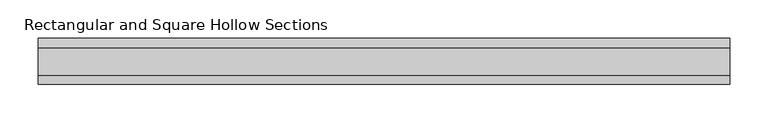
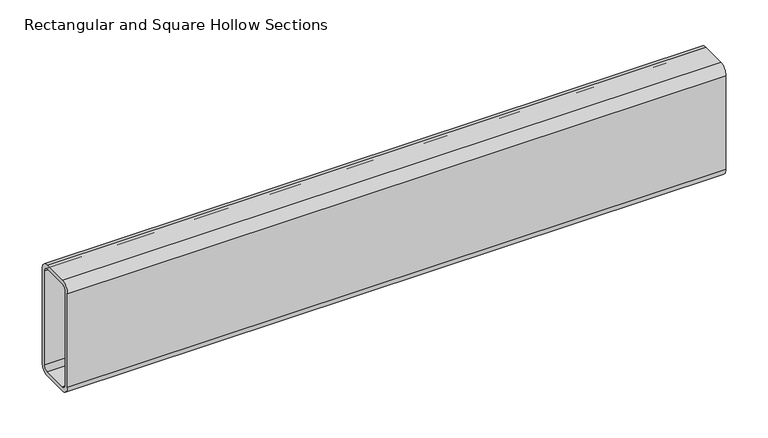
"""IFC4 building model written with IfcOpenShell, lengths in millimetres: beam geometry, Rectangular and Square Hollow Sections : TREC160x60x6."""

import ifcopenshell
import ifcopenshell.guid

model = None  # the IFC model being written
_history = None  # IfcOwnerHistory: only IFC2X3 demands one
_inside = {}  # id of a spatial element -> (the spatial element, [elements in it])
_under = {}  # id of a project, library or spatial element -> (it, [spatial elements below it])
_declared = {}  # id of a project -> (the project, [libraries it declares])
_typed = {}  # id of a type object -> (the type object, [elements of that type])
_made_of = {}  # id of a material, layer set ... -> (it, [elements and type objects made of it])


def new_model(schema):
    """Start an empty IFC model of exactly this schema.

    Asked for "IFC4X3", IfcOpenShell would pick the latest addendum, in which some entities
    have other attributes; the version numbers below select the first issue.
    IFC2X3 requires an IfcOwnerHistory on every rooted entity: one is made here for all.
    """
    global model, _history
    if schema == "IFC4X3":
        model = ifcopenshell.file(schema_version=(4, 3, 0, 0))
    else:
        model = ifcopenshell.file(schema=schema)
    _inside.clear()
    _under.clear()
    _declared.clear()
    _typed.clear()
    _made_of.clear()
    _history = None
    if model.schema == "IFC2X3":
        org = make("IfcOrganization", Name="unknown")
        user = make(
            "IfcPersonAndOrganization",
            ThePerson=make("IfcPerson", FamilyName="unknown"),
            TheOrganization=org,
        )
        app = make(
            "IfcApplication",
            ApplicationDeveloper=org,
            Version="unknown",
            ApplicationFullName="unknown",
            ApplicationIdentifier="unknown",
        )
        _history = make(
            "IfcOwnerHistory",
            OwningUser=user,
            OwningApplication=app,
            ChangeAction="ADDED",
            CreationDate=0,
        )
    return model


def make(cls, **values):
    """One entity of the class cls with the attributes given. An attribute that is None is left unset."""
    return model.create_entity(
        cls, **{name: value for name, value in values.items() if value is not None}
    )


def rooted(cls, **values):
    """An entity with a GlobalId (a new one), such as an element, a storey or a relation."""
    return make(cls, GlobalId=ifcopenshell.guid.new(), OwnerHistory=_history, **values)


def si_unit(unit_type, name, prefix=None):
    """IfcSIUnit, for example si_unit("LENGTHUNIT", "METRE", prefix="MILLI")."""
    return make("IfcSIUnit", UnitType=unit_type, Prefix=prefix, Name=name)


def assignment(units):
    """IfcUnitAssignment: the units of a project."""
    return None if units is None else make("IfcUnitAssignment", Units=units)


def point(xyz):
    """IfcCartesianPoint."""
    return None if xyz is None else make("IfcCartesianPoint", Coordinates=xyz)


def direction(xyz):
    """IfcDirection."""
    return None if xyz is None else make("IfcDirection", DirectionRatios=xyz)


def frame(location, z_axis=None, x_axis=None):
    """IfcAxis2Placement3D, a coordinate frame: its origin and axes. An axis left out is left unset."""
    return make(
        "IfcAxis2Placement3D",
        Location=point(location),
        Axis=direction(z_axis),
        RefDirection=direction(x_axis),
    )


def frame_2d(location, x_axis=None):
    """IfcAxis2Placement2D, a coordinate frame in the plane: its origin and x axis."""
    return make(
        "IfcAxis2Placement2D", Location=point(location), RefDirection=direction(x_axis)
    )


def origin():
    """The frame at (0, 0, 0) with its axes left unset."""
    return frame((0.0, 0.0, 0.0))


def place(relative_to, where):
    """IfcLocalPlacement: puts the frame where relative to a parent placement (None: the world)."""
    return make(
        "IfcLocalPlacement", PlacementRelTo=relative_to, RelativePlacement=where
    )


def context(
    kind, dimensions, precision=None, world=None, true_north=None, identifier=None
):
    """IfcGeometricRepresentationContext, for example the 3D "Model" context."""
    return make(
        "IfcGeometricRepresentationContext",
        ContextIdentifier=identifier,
        ContextType=kind,
        CoordinateSpaceDimension=dimensions,
        Precision=precision,
        WorldCoordinateSystem=world,
        TrueNorth=true_north,
    )


def project(units=None, contexts=None):
    """IfcProject with its units and contexts."""
    return rooted(
        "IfcProject",
        Name="project",
        RepresentationContexts=contexts,
        UnitsInContext=assignment(units),
    )


def spatial(cls, under=None, at=None, **own):
    """A site, building, storey or space (cls), placed at a placement, below another one or the project."""
    s = rooted(cls, ObjectPlacement=at, **own)
    if under is not None:
        _under.setdefault(under.id(), (under, []))[1].append(s)
    return s


def polyline(points):
    """IfcPolyline through the points."""
    return make("IfcPolyline", Points=[point(p) for p in points])


def circle_curve(where, radius):
    """IfcCircle in the frame where."""
    return make("IfcCircle", Position=where, Radius=radius)


def trimmed(basis, trim1, trim2, sense, master):
    """IfcTrimmedCurve: the piece of a basis curve between two trims."""
    return make(
        "IfcTrimmedCurve",
        BasisCurve=basis,
        Trim1=trim1,
        Trim2=trim2,
        SenseAgreement=sense,
        MasterRepresentation=master,
    )


def segment(curve, same_sense, transition):
    """IfcCompositeCurveSegment."""
    return make(
        "IfcCompositeCurveSegment",
        Transition=transition,
        SameSense=same_sense,
        ParentCurve=curve,
    )


def composite_curve(segments, self_intersect=None):
    """IfcCompositeCurve: segments joined end to end."""
    return make("IfcCompositeCurve", Segments=segments, SelfIntersect=self_intersect)


def outline(outer, holes=None, kind="AREA"):
    """IfcArbitraryClosedProfileDef: a profile drawn as a closed curve; with holes, ...WithVoids."""
    if holes is None:
        return make("IfcArbitraryClosedProfileDef", ProfileType=kind, OuterCurve=outer)
    return make(
        "IfcArbitraryProfileDefWithVoids",
        ProfileType=kind,
        OuterCurve=outer,
        InnerCurves=holes,
    )


def extrude(swept, where, along, depth):
    """IfcExtrudedAreaSolid: the profile swept, set in the frame where, extruded along a direction by depth."""
    return make(
        "IfcExtrudedAreaSolid",
        SweptArea=swept,
        Position=where,
        ExtrudedDirection=direction(along),
        Depth=depth,
    )


def shape(context_of_items, identifier, shape_type, items):
    """IfcShapeRepresentation: the items that make up one representation, for example the "Body"."""
    return make(
        "IfcShapeRepresentation",
        ContextOfItems=context_of_items,
        RepresentationIdentifier=identifier,
        RepresentationType=shape_type,
        Items=items,
    )


def source(mapping_origin, context_of_items, identifier, shape_type, items):
    """IfcRepresentationMap: a shape defined once, which mapped items show again and again."""
    return make(
        "IfcRepresentationMap",
        MappingOrigin=mapping_origin,
        MappedRepresentation=shape(context_of_items, identifier, shape_type, items),
    )


def transform(
    local_origin,
    x_axis=None,
    y_axis=None,
    z_axis=None,
    scale=None,
    scale2=None,
    scale3=None,
    uniform=True,
):
    """IfcCartesianTransformationOperator3D, or its non-uniform kind. x_axis, y_axis, z_axis: its Axis1, 2, 3."""
    if uniform:
        return make(
            "IfcCartesianTransformationOperator3D",
            Axis1=direction(x_axis),
            Axis2=direction(y_axis),
            LocalOrigin=point(local_origin),
            Scale=scale,
            Axis3=direction(z_axis),
        )
    return make(
        "IfcCartesianTransformationOperator3DnonUniform",
        Axis1=direction(x_axis),
        Axis2=direction(y_axis),
        LocalOrigin=point(local_origin),
        Scale=scale,
        Axis3=direction(z_axis),
        Scale2=scale2,
        Scale3=scale3,
    )


def mapped(mapping_source, mapping_target):
    """IfcMappedItem: shows the shape of a source again, moved by a transform."""
    return make(
        "IfcMappedItem", MappingSource=mapping_source, MappingTarget=mapping_target
    )


def made_of(thing, what):
    """Note that an element or type object is made of a material, layer set ...; save() writes the relation."""
    if what is not None:
        _made_of.setdefault(what.id(), (what, []))[1].append(thing)
    return thing


def element(
    cls,
    number,
    at=None,
    inside=None,
    cuts=None,
    type_object=None,
    material=None,
    context=None,
    identifier="Body",
    shape_type=None,
    held_by="IfcProductDefinitionShape",
    body=None,
    shapes=None,
    **own,
):
    """One element of the class cls, such as IfcWall. Its Tag is "e" and its number.

    at: its placement. inside: the storey or other place that contains it. cuts: it is an
    opening in that element (IfcRelVoidsElement). A single representation is given by context,
    identifier, shape_type and body (its items); several are given by shapes. held_by: the class
    of the entity that holds the representations. save() writes the other relations.
    """
    e = rooted(cls, Tag="e%d" % number, ObjectPlacement=at, **own)
    if body is not None:
        shapes = [shape(context, identifier, shape_type, body)]
    if shapes is not None:
        e.Representation = make(held_by, Representations=shapes)
    if inside is not None:
        _inside.setdefault(inside.id(), (inside, []))[1].append(e)
    if cuts is not None:
        rooted(
            "IfcRelVoidsElement", RelatingBuildingElement=cuts, RelatedOpeningElement=e
        )
    if type_object is not None:
        _typed.setdefault(type_object.id(), (type_object, []))[1].append(e)
    return made_of(e, material)


def aggregate(whole, parts):
    """IfcRelAggregates: a whole, such as a stair, and the parts it consists of."""
    return rooted("IfcRelAggregates", RelatingObject=whole, RelatedObjects=parts)


def save(model, path):
    """Write the relations noted so far, then the file.

    IfcRelAggregates (storeys below a building ...), IfcRelContainedInSpatialStructure (elements
    in a storey), IfcRelDefinesByType, IfcRelAssociatesMaterial and IfcRelDeclares: one each for
    every whole, place, type object, material and project.
    """
    for whole, parts in _under.values():
        aggregate(whole, parts)
    for where, things in _inside.values():
        rooted(
            "IfcRelContainedInSpatialStructure",
            RelatedElements=things,
            RelatingStructure=where,
        )
    for kind, things in _typed.values():
        rooted("IfcRelDefinesByType", RelatedObjects=things, RelatingType=kind)
    for what, things in _made_of.values():
        rooted("IfcRelAssociatesMaterial", RelatedObjects=things, RelatingMaterial=what)
    for by, libraries in _declared.values():
        rooted("IfcRelDeclares", RelatingContext=by, RelatedDefinitions=libraries)
    model.write(path)


def rectangular_and_square_hollow_sections_f002cd70(model_context):
    return source(origin(), model_context, "Body", "SweptSolid", [
        extrude(outline(composite_curve([segment(polyline([(30.0, 68.0), (30.0, -68.0)]), True, "CONTINUOUS"), segment(trimmed(circle_curve(frame_2d((18.0, -68.0)), 12.0), [point((30.0, -68.0))], [point((18.0, -80.0))], False, "CARTESIAN"), True, "CONTINUOUS"), segment(polyline([(18.0, -80.0), (-18.0, -80.0)]), True, "CONTINUOUS"), segment(trimmed(circle_curve(frame_2d((-18.0, -68.0)), 12.0), [point((-18.0, -80.0))], [point((-30.0, -68.0))], False, "CARTESIAN"), True, "CONTINUOUS"), segment(polyline([(-30.0, -68.0), (-30.0, 68.0)]), True, "CONTINUOUS"), segment(trimmed(circle_curve(frame_2d((-18.0, 68.0)), 12.0), [point((-30.0, 68.0))], [point((-18.0, 80.0))], False, "CARTESIAN"), True, "CONTINUOUS"), segment(polyline([(-18.0, 80.0), (18.0, 80.0)]), True, "CONTINUOUS"), segment(trimmed(circle_curve(frame_2d((18.0, 68.0)), 12.0), [point((18.0, 80.0))], [point((30.0, 68.0))], False, "CARTESIAN"), True, "CONTINUOUS")], self_intersect=False), holes=[composite_curve([segment(trimmed(circle_curve(frame_2d((-18.0, 68.0)), 6.0), [point((-18.0, 74.0))], [point((-24.0, 68.0))], True, "CARTESIAN"), True, "CONTINUOUS"), segment(polyline([(-24.0, 68.0), (-24.0, -68.0)]), True, "CONTINUOUS"), segment(trimmed(circle_curve(frame_2d((-18.0, -68.0)), 6.0), [point((-24.0, -68.0))], [point((-18.0, -74.0))], True, "CARTESIAN"), True, "CONTINUOUS"), segment(polyline([(-18.0, -74.0), (18.0, -74.0)]), True, "CONTINUOUS"), segment(trimmed(circle_curve(frame_2d((18.0, -68.0)), 6.0), [point((18.0, -74.0))], [point((24.0, -68.0))], True, "CARTESIAN"), True, "CONTINUOUS"), segment(polyline([(24.0, -68.0), (24.0, 68.0)]), True, "CONTINUOUS"), segment(trimmed(circle_curve(frame_2d((18.0, 68.0)), 6.0), [point((24.0, 68.0))], [point((18.0, 74.0))], True, "CARTESIAN"), True, "CONTINUOUS"), segment(polyline([(18.0, 74.0), (-18.0, 74.0)]), True, "CONTINUOUS")], self_intersect=False)]), frame((-451.0, 0.0, 0.0), z_axis=(1.0, 0.0, 0.0), x_axis=(0.0, 1.0, 0.0)), (0.0, 0.0, 1.0), 902.0),
    ])


if __name__ == "__main__":
    model = new_model("IFC4")
    model_context = context("Model", 3, world=origin())
    ifc_project = project(units=[si_unit("LENGTHUNIT", "METRE", prefix="MILLI")], contexts=[model_context])
    site = spatial("IfcSite", under=ifc_project)
    building = spatial("IfcBuilding", under=site)
    placement = place(None, origin())
    rectangular_and_square_hollow_sections_shape = rectangular_and_square_hollow_sections_f002cd70(model_context)
    element("IfcBeam", 1, ObjectType="Rectangular and Square Hollow Sections : TREC160x60x6", at=placement, inside=building, context=model_context, shape_type="MappedRepresentation", body=[
        mapped(rectangular_and_square_hollow_sections_shape, transform((0.0, 0.0, 0.0), x_axis=(1.0, 0.0, 0.0), y_axis=(0.0, 1.0, 0.0), z_axis=(0.0, 0.0, 1.0))),
    ])
    save(model, "model.ifc")
